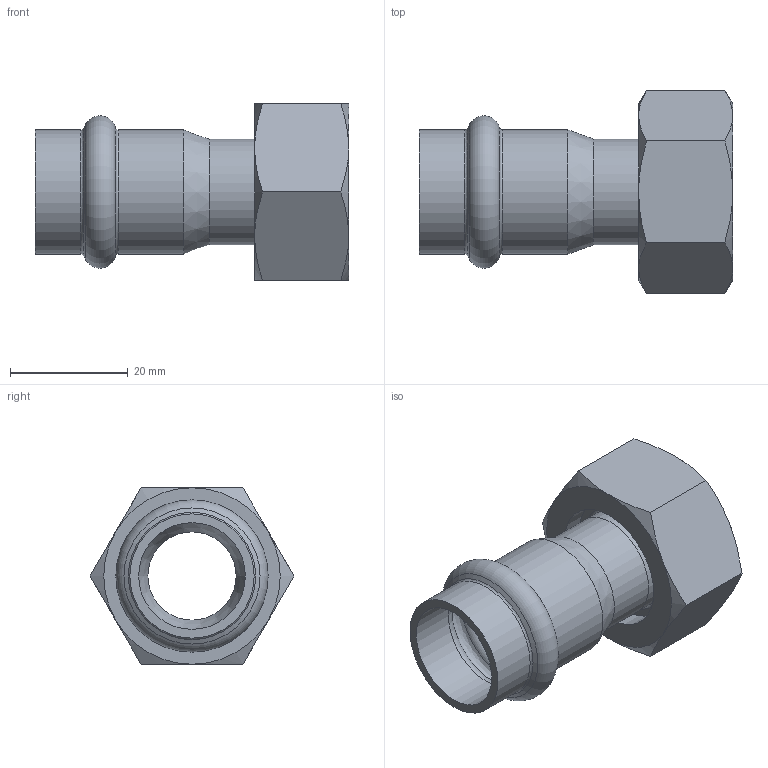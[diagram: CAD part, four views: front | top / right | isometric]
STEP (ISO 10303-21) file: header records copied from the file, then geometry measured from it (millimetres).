
FILE_DESCRIPTION((''),'2;1');
FILE_NAME('G:\Nirosan-Schmiedefeld\Technics\CAD\Bauteile VA\018\69359mms1834(1).stp','2011-06-30T10:53:04',('herberg'),(''),'Autodesk Inventor 2009','Autodesk Inventor 2009','');
FILE_SCHEMA(('AUTOMOTIVE_DESIGN { 1 0 10303 214 1 1 1 1 }'));
Length unit declared in the file: millimetre
Products named in the file (5): 69359mms1834(1); HM_6924318(1); R1834(0); FD_2417_EPDM(0); MS_SM1834(0)
Assembly tree (4 placements, depth 2):
  69359mms1834(1)
    HM_6924318(1)
    R1834(0)
    FD_2417_EPDM(0)
    MS_SM1834(0)
Bounding box: 53.3 x 34.64 x 30 mm (x, y, z)
Volume: 10662.7 mm3; surface area: 10564.8 mm2
Topology: 4 solids, 4 shells, 54 faces, 104 edges, 60 vertices
Faces by surface type: cone 18, plane 15, cylinder 11, bspline 7, torus 3
Full cylindrical faces by diameter (mm): 15 x2, 17 x1, 18 x2, 18.15 x2, 21.15 x2, 23 x1, 24 x1
Entity records: 1589 total; most frequent: CARTESIAN_POINT 496, DIRECTION 212, ORIENTED_EDGE 154, AXIS2_PLACEMENT_3D 103, EDGE_LOOP 90, EDGE_CURVE 77, VERTEX_POINT 59, FACE_OUTER_BOUND 54
